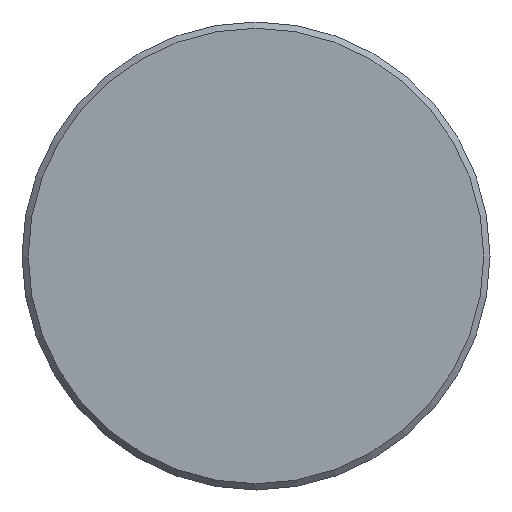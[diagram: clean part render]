
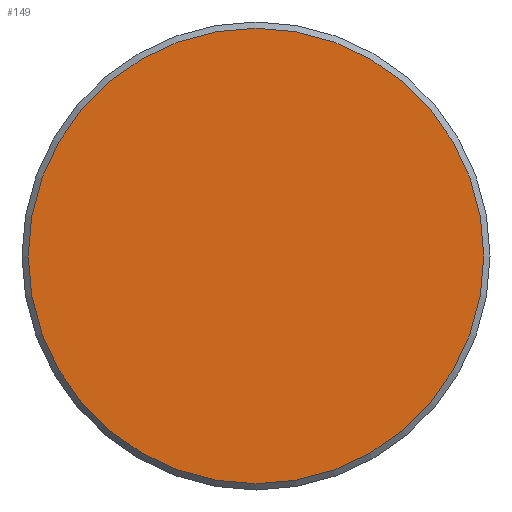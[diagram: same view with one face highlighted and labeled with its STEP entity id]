
A CAD part, front view. The second image highlights one B-rep face of the part: STEP entity #149.
In plain terms, the highlighted planar face has unit normal (0, -1, 0).
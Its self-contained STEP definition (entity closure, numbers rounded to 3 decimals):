
#149 = ADVANCED_FACE( '', ( #307 ), #308, .F. );
#307 = FACE_OUTER_BOUND( '', #507, .T. );
#308 = PLANE( '', #508 );
#507 = EDGE_LOOP( '', ( #712 ) );
#508 = AXIS2_PLACEMENT_3D( '', #713, #714, #715 );
#712 = ORIENTED_EDGE( '', *, *, #1127, .T. );
#713 = CARTESIAN_POINT( '', ( 29.2, 0., 0. ) );
#714 = DIRECTION( '', ( 0., 1., 0. ) );
#715 = DIRECTION( '', ( 0., 0., 1. ) );
#1127 = EDGE_CURVE( '', #1299, #1299, #1300, .T. );
#1299 = VERTEX_POINT( '', #1571 );
#1300 = CIRCLE( '', #1572, 29.2 );
#1571 = CARTESIAN_POINT( '', ( 0., 0., -29.2 ) );
#1572 = AXIS2_PLACEMENT_3D( '', #2020, #2021, #2022 );
#2020 = CARTESIAN_POINT( '', ( 0., 0., 0. ) );
#2021 = DIRECTION( '', ( 0., -1., 0. ) );
#2022 = DIRECTION( '', ( 0., 0., -1. ) );
